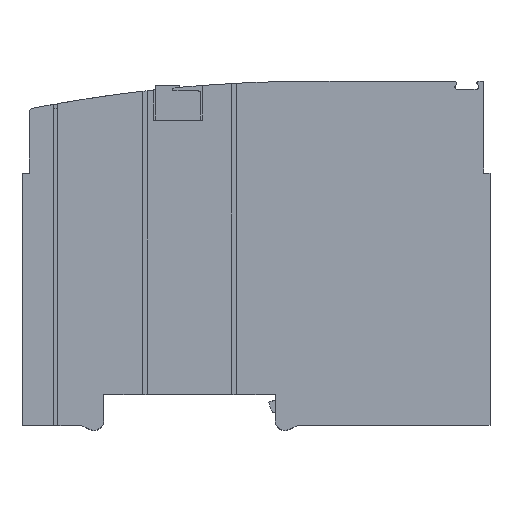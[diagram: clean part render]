
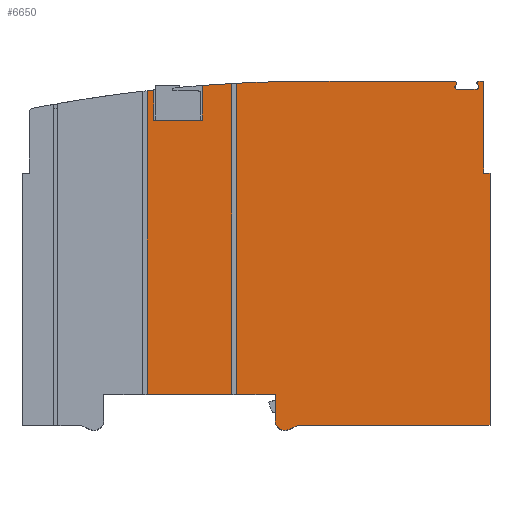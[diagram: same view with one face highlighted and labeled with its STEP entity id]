
A CAD part, top view. The second image highlights one B-rep face of the part: STEP entity #6650.
In plain terms, the highlighted planar face has unit normal (0, 0, 1).
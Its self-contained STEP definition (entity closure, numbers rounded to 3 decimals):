
#22=PLANE('',#6934);
#267=CIRCLE('',#6926,300.);
#269=CIRCLE('',#6928,300.);
#273=CIRCLE('',#6935,2.);
#274=CIRCLE('',#6936,0.4);
#275=CIRCLE('',#6937,0.49);
#276=CIRCLE('',#6938,0.49);
#277=CIRCLE('',#6939,0.4);
#366=ORIENTED_EDGE('',*,*,#1760,.F.);
#367=ORIENTED_EDGE('',*,*,#1761,.T.);
#368=ORIENTED_EDGE('',*,*,#1762,.T.);
#369=ORIENTED_EDGE('',*,*,#1763,.T.);
#370=ORIENTED_EDGE('',*,*,#1764,.T.);
#371=ORIENTED_EDGE('',*,*,#1765,.T.);
#372=ORIENTED_EDGE('',*,*,#1766,.T.);
#373=ORIENTED_EDGE('',*,*,#1767,.F.);
#374=ORIENTED_EDGE('',*,*,#1768,.F.);
#375=ORIENTED_EDGE('',*,*,#1769,.T.);
#376=ORIENTED_EDGE('',*,*,#1770,.T.);
#377=ORIENTED_EDGE('',*,*,#1771,.T.);
#378=ORIENTED_EDGE('',*,*,#1772,.F.);
#379=ORIENTED_EDGE('',*,*,#1773,.F.);
#380=ORIENTED_EDGE('',*,*,#1774,.F.);
#381=ORIENTED_EDGE('',*,*,#1775,.F.);
#382=ORIENTED_EDGE('',*,*,#1776,.F.);
#383=ORIENTED_EDGE('',*,*,#1777,.F.);
#384=ORIENTED_EDGE('',*,*,#1778,.F.);
#385=ORIENTED_EDGE('',*,*,#1779,.T.);
#386=ORIENTED_EDGE('',*,*,#1780,.T.);
#387=ORIENTED_EDGE('',*,*,#1740,.T.);
#388=ORIENTED_EDGE('',*,*,#1781,.F.);
#389=ORIENTED_EDGE('',*,*,#1782,.F.);
#390=ORIENTED_EDGE('',*,*,#1783,.F.);
#391=ORIENTED_EDGE('',*,*,#1736,.T.);
#392=ORIENTED_EDGE('',*,*,#1784,.T.);
#393=ORIENTED_EDGE('',*,*,#1785,.T.);
#394=ORIENTED_EDGE('',*,*,#1786,.F.);
#1736=EDGE_CURVE('',#2435,#2434,#267,.T.);
#1740=EDGE_CURVE('',#2439,#2438,#269,.T.);
#1760=EDGE_CURVE('',#2456,#2457,#2907,.T.);
#1761=EDGE_CURVE('',#2456,#2458,#2908,.T.);
#1762=EDGE_CURVE('',#2458,#2459,#2909,.T.);
#1763=EDGE_CURVE('',#2459,#2460,#2910,.T.);
#1764=EDGE_CURVE('',#2460,#2461,#273,.T.);
#1765=EDGE_CURVE('',#2461,#2462,#2911,.T.);
#1766=EDGE_CURVE('',#2462,#2463,#2912,.T.);
#1767=EDGE_CURVE('',#2464,#2463,#2913,.T.);
#1768=EDGE_CURVE('',#2465,#2464,#2914,.T.);
#1769=EDGE_CURVE('',#2465,#2466,#2915,.T.);
#1770=EDGE_CURVE('',#2466,#2467,#2916,.T.);
#1771=EDGE_CURVE('',#2467,#2468,#274,.T.);
#1772=EDGE_CURVE('',#2469,#2468,#2917,.T.);
#1773=EDGE_CURVE('',#2470,#2469,#275,.T.);
#1774=EDGE_CURVE('',#2471,#2470,#2918,.T.);
#1775=EDGE_CURVE('',#2472,#2471,#2919,.T.);
#1776=EDGE_CURVE('',#2473,#2472,#2920,.T.);
#1777=EDGE_CURVE('',#2474,#2473,#276,.T.);
#1778=EDGE_CURVE('',#2475,#2474,#2921,.T.);
#1779=EDGE_CURVE('',#2475,#2476,#277,.T.);
#1780=EDGE_CURVE('',#2476,#2439,#2922,.T.);
#1781=EDGE_CURVE('',#2477,#2438,#2923,.T.);
#1782=EDGE_CURVE('',#2478,#2477,#2924,.T.);
#1783=EDGE_CURVE('',#2435,#2478,#2925,.T.);
#1784=EDGE_CURVE('',#2434,#2479,#2926,.T.);
#1785=EDGE_CURVE('',#2479,#2480,#2927,.T.);
#1786=EDGE_CURVE('',#2457,#2480,#2928,.T.);
#2434=VERTEX_POINT('',#8582);
#2435=VERTEX_POINT('',#8584);
#2438=VERTEX_POINT('',#8590);
#2439=VERTEX_POINT('',#8592);
#2456=VERTEX_POINT('',#8632);
#2457=VERTEX_POINT('',#8633);
#2458=VERTEX_POINT('',#8635);
#2459=VERTEX_POINT('',#8637);
#2460=VERTEX_POINT('',#8639);
#2461=VERTEX_POINT('',#8641);
#2462=VERTEX_POINT('',#8643);
#2463=VERTEX_POINT('',#8645);
#2464=VERTEX_POINT('',#8647);
#2465=VERTEX_POINT('',#8649);
#2466=VERTEX_POINT('',#8651);
#2467=VERTEX_POINT('',#8653);
#2468=VERTEX_POINT('',#8655);
#2469=VERTEX_POINT('',#8657);
#2470=VERTEX_POINT('',#8659);
#2471=VERTEX_POINT('',#8661);
#2472=VERTEX_POINT('',#8663);
#2473=VERTEX_POINT('',#8665);
#2474=VERTEX_POINT('',#8667);
#2475=VERTEX_POINT('',#8669);
#2476=VERTEX_POINT('',#8671);
#2477=VERTEX_POINT('',#8674);
#2478=VERTEX_POINT('',#8676);
#2479=VERTEX_POINT('',#8679);
#2480=VERTEX_POINT('',#8681);
#2907=LINE('',#8631,#3538);
#2908=LINE('',#8634,#3539);
#2909=LINE('',#8636,#3540);
#2910=LINE('',#8638,#3541);
#2911=LINE('',#8642,#3542);
#2912=LINE('',#8644,#3543);
#2913=LINE('',#8646,#3544);
#2914=LINE('',#8648,#3545);
#2915=LINE('',#8650,#3546);
#2916=LINE('',#8652,#3547);
#2917=LINE('',#8656,#3548);
#2918=LINE('',#8660,#3549);
#2919=LINE('',#8662,#3550);
#2920=LINE('',#8664,#3551);
#2921=LINE('',#8668,#3552);
#2922=LINE('',#8672,#3553);
#2923=LINE('',#8673,#3554);
#2924=LINE('',#8675,#3555);
#2925=LINE('',#8677,#3556);
#2926=LINE('',#8678,#3557);
#2927=LINE('',#8680,#3558);
#2928=LINE('',#8682,#3559);
#3538=VECTOR('',#7311,1000.);
#3539=VECTOR('',#7312,1000.);
#3540=VECTOR('',#7313,1000.);
#3541=VECTOR('',#7314,1000.);
#3542=VECTOR('',#7317,1000.);
#3543=VECTOR('',#7318,1000.);
#3544=VECTOR('',#7319,1000.);
#3545=VECTOR('',#7320,1000.);
#3546=VECTOR('',#7321,1000.);
#3547=VECTOR('',#7322,1000.);
#3548=VECTOR('',#7325,1000.);
#3549=VECTOR('',#7328,1000.);
#3550=VECTOR('',#7329,1000.);
#3551=VECTOR('',#7330,1000.);
#3552=VECTOR('',#7333,1000.);
#3553=VECTOR('',#7336,1000.);
#3554=VECTOR('',#7337,1000.);
#3555=VECTOR('',#7338,1000.);
#3556=VECTOR('',#7339,1000.);
#3557=VECTOR('',#7340,1000.);
#3558=VECTOR('',#7341,1000.);
#3559=VECTOR('',#7342,1000.);
#4148=EDGE_LOOP('',(#366,#367,#368,#369,#370,#371,#372,#373,#374,#375,#376,
#377,#378,#379,#380,#381,#382,#383,#384,#385,#386,#387,#388,#389,#390,#391,
#392,#393,#394));
#4444=FACE_BOUND('',#4148,.T.);
#6650=ADVANCED_FACE('',(#4444),#22,.T.);
#6926=AXIS2_PLACEMENT_3D('',#8583,#7275,#7276);
#6928=AXIS2_PLACEMENT_3D('',#8591,#7281,#7282);
#6934=AXIS2_PLACEMENT_3D('',#8630,#7309,#7310);
#6935=AXIS2_PLACEMENT_3D('',#8640,#7315,#7316);
#6936=AXIS2_PLACEMENT_3D('',#8654,#7323,#7324);
#6937=AXIS2_PLACEMENT_3D('',#8658,#7326,#7327);
#6938=AXIS2_PLACEMENT_3D('',#8666,#7331,#7332);
#6939=AXIS2_PLACEMENT_3D('',#8670,#7334,#7335);
#7275=DIRECTION('',(0.,0.,1.));
#7276=DIRECTION('',(1.,0.,0.));
#7281=DIRECTION('',(0.,0.,1.));
#7282=DIRECTION('',(1.,0.,0.));
#7309=DIRECTION('',(0.,0.,1.));
#7310=DIRECTION('',(1.,0.,0.));
#7311=DIRECTION('',(-1.,0.,0.));
#7312=DIRECTION('',(0.,-1.,0.));
#7313=DIRECTION('',(1.,0.,0.));
#7314=DIRECTION('',(0.,-1.,0.));
#7315=DIRECTION('',(0.,0.,1.));
#7316=DIRECTION('',(1.,0.,0.));
#7317=DIRECTION('',(0.898,0.441,0.));
#7318=DIRECTION('',(1.,0.,0.));
#7319=DIRECTION('',(0.,-1.,0.));
#7320=DIRECTION('',(1.,0.,0.));
#7321=DIRECTION('',(0.,1.,0.));
#7322=DIRECTION('',(-1.,0.,0.));
#7323=DIRECTION('',(0.,0.,1.));
#7324=DIRECTION('',(1.,0.,0.));
#7325=DIRECTION('',(-0.636,0.772,0.));
#7326=DIRECTION('',(0.,0.,1.));
#7327=DIRECTION('',(1.,0.,0.));
#7328=DIRECTION('',(0.707,0.707,0.));
#7329=DIRECTION('',(1.,0.,0.));
#7330=DIRECTION('',(0.707,-0.707,0.));
#7331=DIRECTION('',(0.,0.,1.));
#7332=DIRECTION('',(1.,0.,0.));
#7333=DIRECTION('',(-0.636,-0.772,0.));
#7334=DIRECTION('',(0.,0.,1.));
#7335=DIRECTION('',(1.,0.,0.));
#7336=DIRECTION('',(-1.,0.,0.));
#7337=DIRECTION('',(0.,1.,0.));
#7338=DIRECTION('',(1.,0.,0.));
#7339=DIRECTION('',(0.,-1.,0.));
#7340=DIRECTION('',(0.,-1.,0.));
#7341=DIRECTION('',(1.,0.,0.));
#7342=DIRECTION('',(0.,-1.,0.));
#8582=CARTESIAN_POINT('',(-8.7,62.578,49.5));
#8583=CARTESIAN_POINT('',(25.205,-235.499,49.5));
#8584=CARTESIAN_POINT('',(-7.4,62.723,49.5));
#8590=CARTESIAN_POINT('',(2.6,63.648,49.5));
#8591=CARTESIAN_POINT('',(25.205,-235.499,49.5));
#8592=CARTESIAN_POINT('',(24.6,64.5,49.5));
#8630=CARTESIAN_POINT('',(-19.7,-5.4,49.5));
#8631=CARTESIAN_POINT('',(-19.7,64.,49.5));
#8632=CARTESIAN_POINT('',(9.7,64.,49.5));
#8633=CARTESIAN_POINT('',(8.7,64.,49.5));
#8634=CARTESIAN_POINT('',(9.7,-5.4,49.5));
#8635=CARTESIAN_POINT('',(9.7,0.,49.5));
#8636=CARTESIAN_POINT('',(-17.7,0.,49.5));
#8637=CARTESIAN_POINT('',(17.7,0.,49.5));
#8638=CARTESIAN_POINT('',(17.7,0.,49.5));
#8639=CARTESIAN_POINT('',(17.7,-5.4,49.5));
#8640=CARTESIAN_POINT('',(19.7,-5.4,49.5));
#8641=CARTESIAN_POINT('',(20.582,-7.195,49.5));
#8642=CARTESIAN_POINT('',(20.582,-7.195,49.5));
#8643=CARTESIAN_POINT('',(22.2,-6.4,49.5));
#8644=CARTESIAN_POINT('',(22.2,-6.4,49.5));
#8645=CARTESIAN_POINT('',(61.9,-6.4,49.5));
#8646=CARTESIAN_POINT('',(61.9,45.6,49.5));
#8647=CARTESIAN_POINT('',(61.9,45.6,49.5));
#8648=CARTESIAN_POINT('',(60.4,45.6,49.5));
#8649=CARTESIAN_POINT('',(60.6,45.6,49.5));
#8650=CARTESIAN_POINT('',(60.6,-6.4,49.5));
#8651=CARTESIAN_POINT('',(60.6,64.5,49.5));
#8652=CARTESIAN_POINT('',(60.6,64.5,49.5));
#8653=CARTESIAN_POINT('',(59.61,64.5,49.5));
#8654=CARTESIAN_POINT('',(59.61,64.1,49.5));
#8655=CARTESIAN_POINT('',(59.301,63.846,49.5));
#8656=CARTESIAN_POINT('',(59.428,63.692,49.5));
#8657=CARTESIAN_POINT('',(59.428,63.692,49.5));
#8658=CARTESIAN_POINT('',(59.05,63.38,49.5));
#8659=CARTESIAN_POINT('',(59.396,63.034,49.5));
#8660=CARTESIAN_POINT('',(59.243,62.88,49.5));
#8661=CARTESIAN_POINT('',(59.243,62.88,49.5));
#8662=CARTESIAN_POINT('',(54.957,62.88,49.5));
#8663=CARTESIAN_POINT('',(54.957,62.88,49.5));
#8664=CARTESIAN_POINT('',(54.804,63.034,49.5));
#8665=CARTESIAN_POINT('',(54.804,63.034,49.5));
#8666=CARTESIAN_POINT('',(55.15,63.38,49.5));
#8667=CARTESIAN_POINT('',(54.772,63.692,49.5));
#8668=CARTESIAN_POINT('',(54.899,63.846,49.5));
#8669=CARTESIAN_POINT('',(54.899,63.846,49.5));
#8670=CARTESIAN_POINT('',(54.59,64.1,49.5));
#8671=CARTESIAN_POINT('',(54.59,64.5,49.5));
#8672=CARTESIAN_POINT('',(60.6,64.5,49.5));
#8673=CARTESIAN_POINT('',(2.6,56.5,49.5));
#8674=CARTESIAN_POINT('',(2.6,56.5,49.5));
#8675=CARTESIAN_POINT('',(-7.4,56.5,49.5));
#8676=CARTESIAN_POINT('',(-7.4,56.5,49.5));
#8677=CARTESIAN_POINT('',(-7.4,-5.4,49.5));
#8678=CARTESIAN_POINT('',(-8.7,64.,49.5));
#8679=CARTESIAN_POINT('',(-8.7,0.,49.5));
#8680=CARTESIAN_POINT('',(-17.7,0.,49.5));
#8681=CARTESIAN_POINT('',(8.7,0.,49.5));
#8682=CARTESIAN_POINT('',(8.7,64.,49.5));
